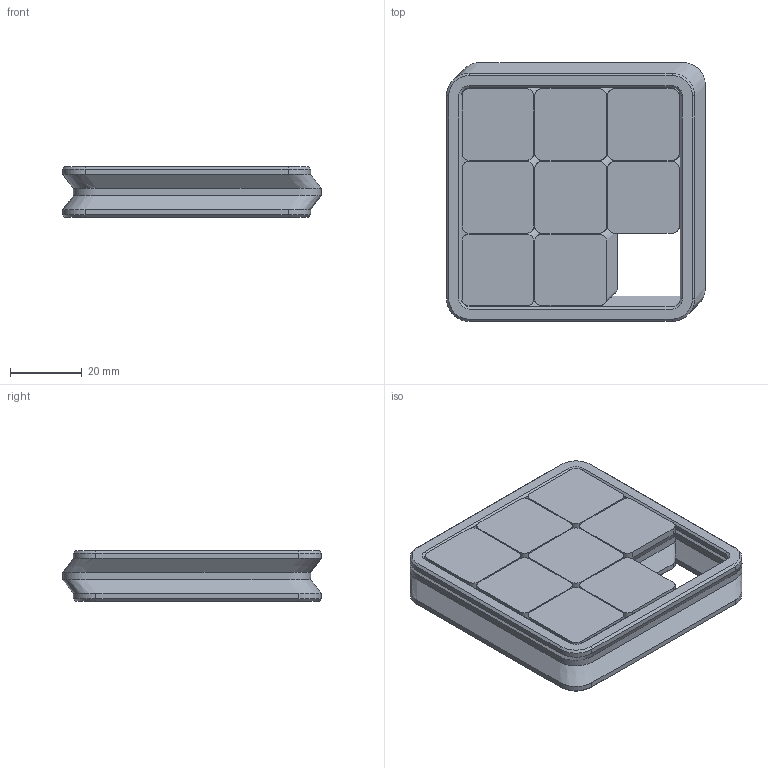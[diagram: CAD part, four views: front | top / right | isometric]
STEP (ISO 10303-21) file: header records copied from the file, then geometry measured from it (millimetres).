
FILE_DESCRIPTION(/* description */ (''),/* implementation_level */ '2;1');
FILE_NAME(/* name */ 'D:/Exciting Creations/3D Designs/MapSlidingPuzzle/FullyParametricSlidingPuzzle.step',/* time_stamp */ '2021-08-21T13:48:44+03:00',/* author */ (''),/* organization */ (''),/* preprocessor_version */ 'ST-DEVELOPER v18.1',/* originating_system */ 'Autodesk Translation Framework v10.9.0.1377',/* authorisation */ '');
FILE_SCHEMA (('AUTOMOTIVE_DESIGN { 1 0 10303 214 3 1 1 }'));
Length unit declared in the file: millimetre
Products named in the file (1): ParametricSlidingPuzzle Copy
Bounding box: 72.2 x 72.2 x 14 mm (x, y, z)
Volume: 58068 mm3; surface area: 25701.2 mm2
Topology: 9 solids, 9 shells, 304 faces, 802 edges, 516 vertices
Faces by surface type: plane 146, cylinder 80, cone 48, bspline 30
Entity records: 13085 total; most frequent: CARTESIAN_POINT 5523, ORIENTED_EDGE 1604, DIRECTION 1540, EDGE_CURVE 802, AXIS2_PLACEMENT_3D 523, VERTEX_POINT 516, LINE 494, VECTOR 494
